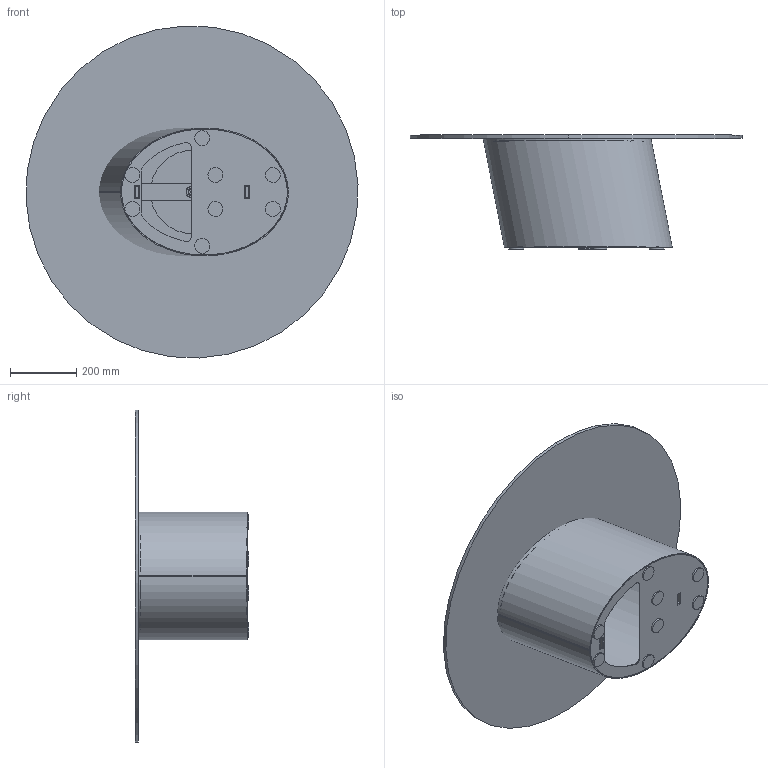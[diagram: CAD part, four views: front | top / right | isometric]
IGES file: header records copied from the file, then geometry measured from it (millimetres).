
Start section: SolidWorks IGES file using analytic representation for surfaces
Global section: file name: Y:\eforma\TECNICO\SOLIDWORKS\E-FORMA\2-TAVOLINI\DORADO LOW\02 parts\D103G.IGS; native system: SolidWorks 2022; preprocessor: SolidWorks 2022; author: eforma.tech; date: 240807.131914; units: millimetre
Bounding box: 999.01 x 343 x 999.01 mm (x, y, z)
Volume: 10083256.9 mm3; surface area: 3163134.2 mm2
Topology: 17 solids, 17 shells, 179 faces, 433 edges, 288 vertices
Faces by surface type: plane 84, revolution 81, bspline 14
